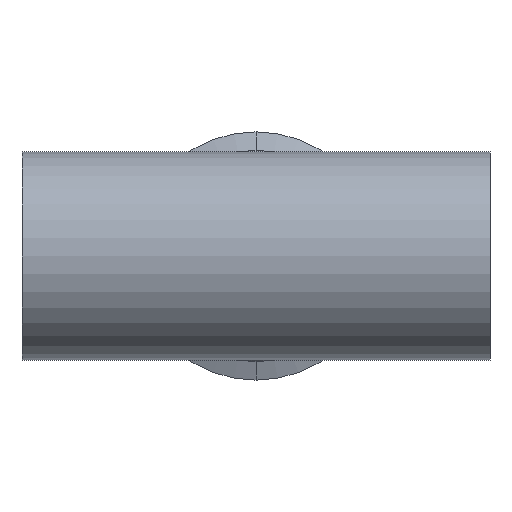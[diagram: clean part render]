
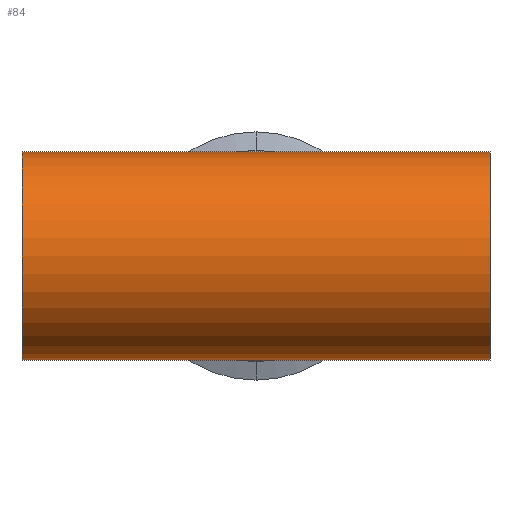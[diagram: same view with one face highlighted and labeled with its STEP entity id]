
A CAD part, front view. The second image highlights one B-rep face of the part: STEP entity #84.
In plain terms, the highlighted cylindrical face has radius 38.1 mm (diameter 76.2 mm), a partial arc.
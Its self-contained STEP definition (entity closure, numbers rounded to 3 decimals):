
#41 = EDGE_CURVE ( 'NONE', #1777, #875, #1067, .T. ) ;
#64 = CARTESIAN_POINT ( 'NONE',  ( 0., 0., 38.1 ) ) ;
#74 = CYLINDRICAL_SURFACE ( 'NONE', #789, 38.1 ) ;
#84 = ADVANCED_FACE ( 'NONE', ( #516 ), #74, .T. ) ;
#86 = ORIENTED_EDGE ( 'NONE', *, *, #1708, .T. ) ;
#113 = CARTESIAN_POINT ( 'NONE',  ( 85.7, 0., 38.1 ) ) ;
#117 = ORIENTED_EDGE ( 'NONE', *, *, #41, .T. ) ;
#160 = CARTESIAN_POINT ( 'NONE',  ( -85.7, 0., 38.1 ) ) ;
#186 = DIRECTION ( 'NONE',  ( 1., 0., 0. ) ) ;
#278 = DIRECTION ( 'NONE',  ( 0., 0., -1. ) ) ;
#341 = CARTESIAN_POINT ( 'NONE',  ( 0., 0., -38.1 ) ) ;
#379 = CIRCLE ( 'NONE', #751, 38.1 ) ;
#416 = DIRECTION ( 'NONE',  ( 1., 0., 0. ) ) ;
#424 = VECTOR ( 'NONE', #186, 1000. ) ;
#516 = FACE_OUTER_BOUND ( 'NONE', #785, .T. ) ;
#518 = LINE ( 'NONE', #1266, #1632 ) ;
#531 = VERTEX_POINT ( 'NONE', #113 ) ;
#554 = ORIENTED_EDGE ( 'NONE', *, *, #1109, .T. ) ;
#561 = VERTEX_POINT ( 'NONE', #160 ) ;
#572 = VECTOR ( 'NONE', #892, 1000. ) ;
#584 = CARTESIAN_POINT ( 'NONE',  ( -85.7, 0., 0. ) ) ;
#621 = LINE ( 'NONE', #1320, #572 ) ;
#751 = AXIS2_PLACEMENT_3D ( 'NONE', #1760, #1737, #278 ) ;
#785 = EDGE_LOOP ( 'NONE', ( #1374, #1089, #117, #86, #554, #1313 ) ) ;
#789 = AXIS2_PLACEMENT_3D ( 'NONE', #584, #1301, #1721 ) ;
#814 = CARTESIAN_POINT ( 'NONE',  ( -85.7, 0., -38.1 ) ) ;
#840 = LINE ( 'NONE', #1134, #424 ) ;
#875 = VERTEX_POINT ( 'NONE', #341 ) ;
#892 = DIRECTION ( 'NONE',  ( 1., 0., 0. ) ) ;
#900 = CARTESIAN_POINT ( 'NONE',  ( 85.7, 0., -38.1 ) ) ;
#954 = EDGE_CURVE ( 'NONE', #561, #1777, #1682, .T. ) ;
#990 = EDGE_CURVE ( 'NONE', #1242, #531, #621, .T. ) ;
#1038 = VERTEX_POINT ( 'NONE', #900 ) ;
#1067 = LINE ( 'NONE', #814, #1441 ) ;
#1089 = ORIENTED_EDGE ( 'NONE', *, *, #954, .T. ) ;
#1109 = EDGE_CURVE ( 'NONE', #1038, #531, #379, .T. ) ;
#1134 = CARTESIAN_POINT ( 'NONE',  ( -85.7, 0., 38.1 ) ) ;
#1188 = DIRECTION ( 'NONE',  ( 0., 0., -1. ) ) ;
#1242 = VERTEX_POINT ( 'NONE', #64 ) ;
#1266 = CARTESIAN_POINT ( 'NONE',  ( -85.7, 0., -38.1 ) ) ;
#1301 = DIRECTION ( 'NONE',  ( 1., 0., 0. ) ) ;
#1313 = ORIENTED_EDGE ( 'NONE', *, *, #990, .F. ) ;
#1320 = CARTESIAN_POINT ( 'NONE',  ( -85.7, 0., 38.1 ) ) ;
#1363 = DIRECTION ( 'NONE',  ( 1., 0., 0. ) ) ;
#1368 = AXIS2_PLACEMENT_3D ( 'NONE', #1594, #416, #1188 ) ;
#1374 = ORIENTED_EDGE ( 'NONE', *, *, #1851, .F. ) ;
#1441 = VECTOR ( 'NONE', #1831, 1000. ) ;
#1594 = CARTESIAN_POINT ( 'NONE',  ( -85.7, 0., 0. ) ) ;
#1632 = VECTOR ( 'NONE', #1363, 1000. ) ;
#1682 = CIRCLE ( 'NONE', #1368, 38.1 ) ;
#1708 = EDGE_CURVE ( 'NONE', #875, #1038, #518, .T. ) ;
#1721 = DIRECTION ( 'NONE',  ( 0., 0., -1. ) ) ;
#1737 = DIRECTION ( 'NONE',  ( -1., 0., 0. ) ) ;
#1760 = CARTESIAN_POINT ( 'NONE',  ( 85.7, 0., 0. ) ) ;
#1769 = CARTESIAN_POINT ( 'NONE',  ( -85.7, 0., -38.1 ) ) ;
#1777 = VERTEX_POINT ( 'NONE', #1769 ) ;
#1831 = DIRECTION ( 'NONE',  ( 1., 0., 0. ) ) ;
#1851 = EDGE_CURVE ( 'NONE', #561, #1242, #840, .T. ) ;
